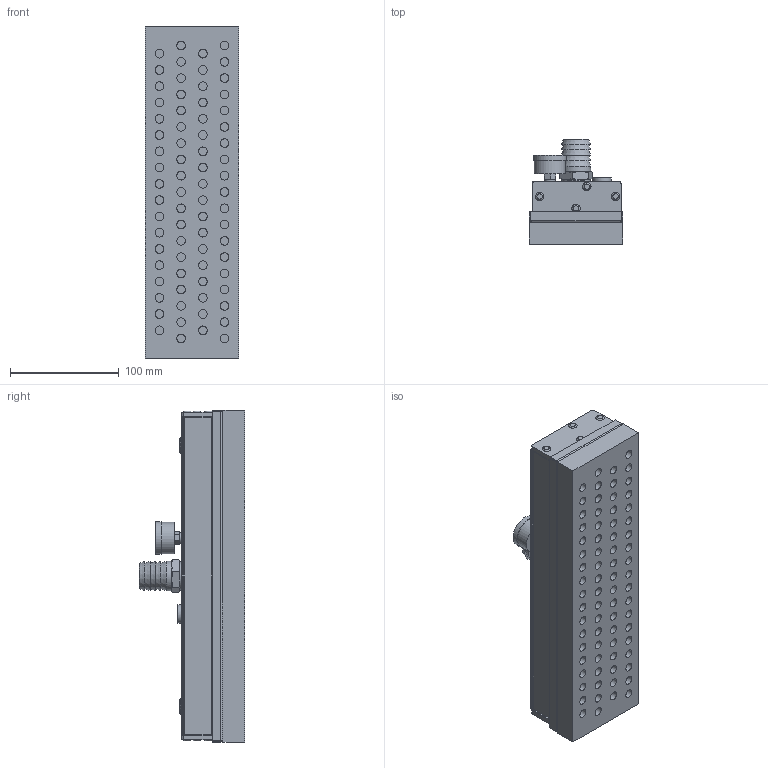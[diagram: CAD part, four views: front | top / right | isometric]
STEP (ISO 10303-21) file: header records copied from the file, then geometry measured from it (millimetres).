
FILE_DESCRIPTION (( 'STEP AP203' ), '1' );
FILE_NAME ('9671-030-013.STEP', '2014-03-12T11:21:06', ( '' ), ( '' ), 'SwSTEP 2.0', 'SolidWorks 2014', '' );
FILE_SCHEMA (( 'CONFIG_CONTROL_DESIGN' ));
Length unit declared in the file: millimetre
Products named in the file (1): 9671-030-013
Bounding box: 86 x 97 x 306 mm (x, y, z)
Volume: 1396183.6 mm3; surface area: 166698.7 mm2
Topology: 1 solids, 1 shells, 451 faces, 916 edges, 580 vertices
Faces by surface type: plane 274, cylinder 129, cone 19, torus 15, bspline 14
Full cylindrical faces by diameter (mm): 6.8 x4, 8 x74, 9.77 x1, 15 x2, 17 x1, 18.9 x1, 26 x1, 26.96 x1, 27 x1, 29 x1, 30 x1
Entity records: 12017 total; most frequent: CARTESIAN_POINT 2894, DIRECTION 1908, ORIENTED_EDGE 1586, EDGE_CURVE 793, AXIS2_PLACEMENT_3D 739, EDGE_LOOP 668, VERTEX_POINT 561, FACE_OUTER_BOUND 548
